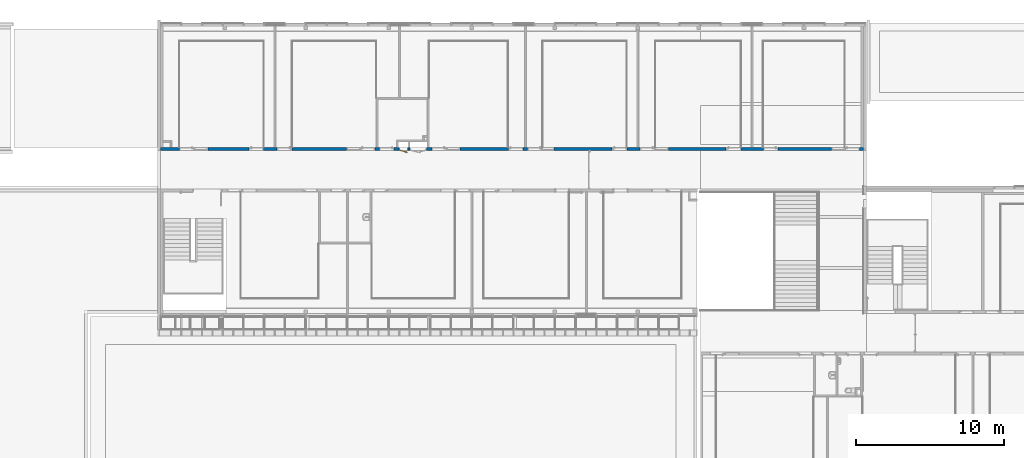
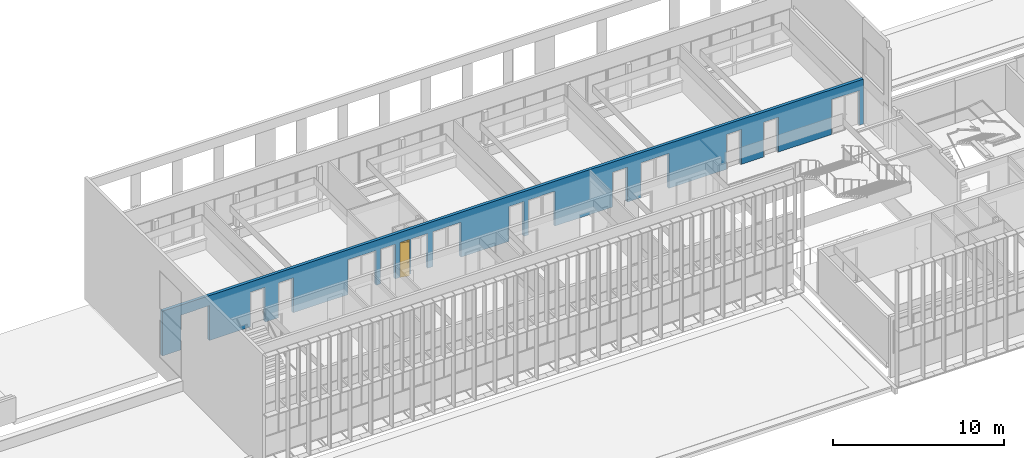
# One storey, part 47 of 106: 1 door, 1 wall, 21 openings.
"""IFC2X3 building model written with IfcOpenShell, lengths in centimetres."""

import ifcopenshell
import ifcopenshell.guid

model = None  # the IFC model being written
_history = None  # IfcOwnerHistory: only IFC2X3 demands one
_inside = {}  # id of a spatial element -> (the spatial element, [elements in it])
_under = {}  # id of a project, library or spatial element -> (it, [spatial elements below it])
_declared = {}  # id of a project -> (the project, [libraries it declares])
_typed = {}  # id of a type object -> (the type object, [elements of that type])
_made_of = {}  # id of a material, layer set ... -> (it, [elements and type objects made of it])


def new_model(schema):
    """Start an empty IFC model of exactly this schema.

    Asked for "IFC4X3", IfcOpenShell would pick the latest addendum, in which some entities
    have other attributes; the version numbers below select the first issue.
    IFC2X3 requires an IfcOwnerHistory on every rooted entity: one is made here for all.
    """
    global model, _history
    if schema == "IFC4X3":
        model = ifcopenshell.file(schema_version=(4, 3, 0, 0))
    else:
        model = ifcopenshell.file(schema=schema)
    _inside.clear()
    _under.clear()
    _declared.clear()
    _typed.clear()
    _made_of.clear()
    _history = None
    if model.schema == "IFC2X3":
        org = make("IfcOrganization", Name="unknown")
        user = make(
            "IfcPersonAndOrganization",
            ThePerson=make("IfcPerson", FamilyName="unknown"),
            TheOrganization=org,
        )
        app = make(
            "IfcApplication",
            ApplicationDeveloper=org,
            Version="unknown",
            ApplicationFullName="unknown",
            ApplicationIdentifier="unknown",
        )
        _history = make(
            "IfcOwnerHistory",
            OwningUser=user,
            OwningApplication=app,
            ChangeAction="ADDED",
            CreationDate=0,
        )
    return model


def make(cls, **values):
    """One entity of the class cls with the attributes given. An attribute that is None is left unset."""
    return model.create_entity(
        cls, **{name: value for name, value in values.items() if value is not None}
    )


def entity(cls, *values):
    """Any entity or typed value of the class cls, its attributes in the order of the schema. None: left unset."""
    e = model.create_entity(cls)
    for i, value in enumerate(values):
        if value is not None:
            e[i] = value
    return e


def rooted(cls, **values):
    """An entity with a GlobalId (a new one), such as an element, a storey or a relation."""
    return make(cls, GlobalId=ifcopenshell.guid.new(), OwnerHistory=_history, **values)


def si_unit(unit_type, name, prefix=None):
    """IfcSIUnit, for example si_unit("LENGTHUNIT", "METRE", prefix="MILLI")."""
    return make("IfcSIUnit", UnitType=unit_type, Prefix=prefix, Name=name)


def converted_unit(unit_type, name, factor, base, dimensions=None, offset=None):
    """IfcConversionBasedUnit, such as the inch: factor (a typed value) times the base unit."""
    return make(
        "IfcConversionBasedUnit"
        if offset is None
        else "IfcConversionBasedUnitWithOffset",
        ConversionOffset=offset,
        Dimensions=None
        if dimensions is None
        else entity("IfcDimensionalExponents", *dimensions),
        UnitType=unit_type,
        Name=name,
        ConversionFactor=make(
            "IfcMeasureWithUnit", ValueComponent=factor, UnitComponent=base
        ),
    )


def derived_unit(unit_type, elements):
    """IfcDerivedUnit: a product of units, each with its exponent."""
    return make(
        "IfcDerivedUnit",
        Elements=[
            make("IfcDerivedUnitElement", Unit=unit, Exponent=power)
            for unit, power in elements
        ],
        UnitType=unit_type,
    )


def assignment(units):
    """IfcUnitAssignment: the units of a project."""
    return None if units is None else make("IfcUnitAssignment", Units=units)


def point(xyz):
    """IfcCartesianPoint."""
    return None if xyz is None else make("IfcCartesianPoint", Coordinates=xyz)


def direction(xyz):
    """IfcDirection."""
    return None if xyz is None else make("IfcDirection", DirectionRatios=xyz)


def frame(location, z_axis=None, x_axis=None):
    """IfcAxis2Placement3D, a coordinate frame: its origin and axes. An axis left out is left unset."""
    return make(
        "IfcAxis2Placement3D",
        Location=point(location),
        Axis=direction(z_axis),
        RefDirection=direction(x_axis),
    )


def frame_2d(location, x_axis=None):
    """IfcAxis2Placement2D, a coordinate frame in the plane: its origin and x axis."""
    return make(
        "IfcAxis2Placement2D", Location=point(location), RefDirection=direction(x_axis)
    )


def origin():
    """The frame at (0, 0, 0) with its axes left unset."""
    return frame((0.0, 0.0, 0.0))


def place(relative_to, where):
    """IfcLocalPlacement: puts the frame where relative to a parent placement (None: the world)."""
    return make(
        "IfcLocalPlacement", PlacementRelTo=relative_to, RelativePlacement=where
    )


def context(
    kind, dimensions, precision=None, world=None, true_north=None, identifier=None
):
    """IfcGeometricRepresentationContext, for example the 3D "Model" context."""
    return make(
        "IfcGeometricRepresentationContext",
        ContextIdentifier=identifier,
        ContextType=kind,
        CoordinateSpaceDimension=dimensions,
        Precision=precision,
        WorldCoordinateSystem=world,
        TrueNorth=true_north,
    )


def subcontext(parent, identifier, kind, view, scale=None):
    """IfcGeometricRepresentationSubContext, for example "Body" below "Model"."""
    return make(
        "IfcGeometricRepresentationSubContext",
        ContextIdentifier=identifier,
        ContextType=kind,
        ParentContext=parent,
        TargetScale=scale,
        TargetView=view,
    )


def project(units=None, contexts=None):
    """IfcProject with its units and contexts."""
    return rooted(
        "IfcProject",
        Name="project",
        RepresentationContexts=contexts,
        UnitsInContext=assignment(units),
    )


def spatial(cls, under=None, at=None, **own):
    """A site, building, storey or space (cls), placed at a placement, below another one or the project."""
    s = rooted(cls, ObjectPlacement=at, **own)
    if under is not None:
        _under.setdefault(under.id(), (under, []))[1].append(s)
    return s


def polyline(points):
    """IfcPolyline through the points."""
    return make("IfcPolyline", Points=[point(p) for p in points])


def profile(cls, at=None, kind="AREA", **sizes):
    """A parametric profile (cls). Its sizes go by their IFC names, for example OverallWidth=200.0."""
    return make(cls, ProfileType=kind, Position=at, **sizes)


def rectangle(**sizes):
    """IfcRectangleProfileDef."""
    return profile("IfcRectangleProfileDef", **sizes)


def extrude(swept, where, along, depth):
    """IfcExtrudedAreaSolid: the profile swept, set in the frame where, extruded along a direction by depth."""
    return make(
        "IfcExtrudedAreaSolid",
        SweptArea=swept,
        Position=where,
        ExtrudedDirection=direction(along),
        Depth=depth,
    )


def clip(a, b, op="DIFFERENCE"):
    """IfcBooleanClippingResult: the solid a cut by the half space b."""
    return make(
        "IfcBooleanClippingResult", Operator=op, FirstOperand=a, SecondOperand=b
    )


def bounded_halfspace(plane, agree, where, boundary):
    """IfcPolygonalBoundedHalfSpace: a half space limited to a polygon's prism."""
    return make(
        "IfcPolygonalBoundedHalfSpace",
        BaseSurface=make("IfcPlane", Position=plane),
        AgreementFlag=agree,
        Position=where,
        PolygonalBoundary=boundary,
    )


def faces_of(points, faces, orient=None, outer=None):
    """IfcFace entities. A face is a list of loops; a loop is a list of indices into points, from 0.

    orient and outer hold one flag for each loop. By default every Orientation is true, the
    first loop of a face is its IfcFaceOuterBound and the others are IfcFaceBound.
    """
    made = []
    for i, loops in enumerate(faces):
        bounds = []
        for j, loop in enumerate(loops):
            is_outer = j == 0 if outer is None else outer[i][j]
            bounds.append(
                make(
                    "IfcFaceOuterBound" if is_outer else "IfcFaceBound",
                    Bound=make("IfcPolyLoop", Polygon=[points[k] for k in loop]),
                    Orientation=True if orient is None else orient[i][j],
                )
            )
        made.append(make("IfcFace", Bounds=bounds))
    return made


def faceted_brep(points, faces, orient=None, outer=None, voids=None):
    """IfcFacetedBrep: a solid bounded by flat faces; with voids (closed shells), ...WithVoids."""
    shared = [point(p) for p in points]
    hull = make("IfcClosedShell", CfsFaces=faces_of(shared, faces, orient, outer))
    if voids is None:
        return make("IfcFacetedBrep", Outer=hull)
    return make(
        "IfcFacetedBrepWithVoids",
        Outer=hull,
        Voids=[
            make(cls, CfsFaces=faces_of(shared, fs, o, b)) for cls, fs, o, b in voids
        ],
    )


def shape(context_of_items, identifier, shape_type, items):
    """IfcShapeRepresentation: the items that make up one representation, for example the "Body"."""
    return make(
        "IfcShapeRepresentation",
        ContextOfItems=context_of_items,
        RepresentationIdentifier=identifier,
        RepresentationType=shape_type,
        Items=items,
    )


def source(mapping_origin, context_of_items, identifier, shape_type, items):
    """IfcRepresentationMap: a shape defined once, which mapped items show again and again."""
    return make(
        "IfcRepresentationMap",
        MappingOrigin=mapping_origin,
        MappedRepresentation=shape(context_of_items, identifier, shape_type, items),
    )


def transform(
    local_origin,
    x_axis=None,
    y_axis=None,
    z_axis=None,
    scale=None,
    scale2=None,
    scale3=None,
    uniform=True,
):
    """IfcCartesianTransformationOperator3D, or its non-uniform kind. x_axis, y_axis, z_axis: its Axis1, 2, 3."""
    if uniform:
        return make(
            "IfcCartesianTransformationOperator3D",
            Axis1=direction(x_axis),
            Axis2=direction(y_axis),
            LocalOrigin=point(local_origin),
            Scale=scale,
            Axis3=direction(z_axis),
        )
    return make(
        "IfcCartesianTransformationOperator3DnonUniform",
        Axis1=direction(x_axis),
        Axis2=direction(y_axis),
        LocalOrigin=point(local_origin),
        Scale=scale,
        Axis3=direction(z_axis),
        Scale2=scale2,
        Scale3=scale3,
    )


def mapped(mapping_source, mapping_target):
    """IfcMappedItem: shows the shape of a source again, moved by a transform."""
    return make(
        "IfcMappedItem", MappingSource=mapping_source, MappingTarget=mapping_target
    )


def material(Name=None, Category=None):
    """IfcMaterial."""
    return make("IfcMaterial", Name=Name, Category=Category)


def material_list(materials):
    """IfcMaterialList."""
    return make("IfcMaterialList", Materials=materials)


def layer(
    of_material, thickness, ventilated=None, Name=None, Category=None, Priority=None
):
    """IfcMaterialLayer: one layer of a wall or slab, of a material (None: an air gap)."""
    return make(
        "IfcMaterialLayer",
        Material=of_material,
        LayerThickness=thickness,
        IsVentilated=ventilated,
        Name=Name,
        Category=Category,
        Priority=Priority,
    )


def layer_set(layers, Name=None):
    """IfcMaterialLayerSet."""
    return make("IfcMaterialLayerSet", MaterialLayers=layers, LayerSetName=Name)


def layer_usage(for_layer_set, set_direction, sense, offset, extent=None):
    """IfcMaterialLayerSetUsage: how a layer set lies in its element."""
    return make(
        "IfcMaterialLayerSetUsage",
        ForLayerSet=for_layer_set,
        LayerSetDirection=set_direction,
        DirectionSense=sense,
        OffsetFromReferenceLine=offset,
        ReferenceExtent=extent,
    )


def made_of(thing, what):
    """Note that an element or type object is made of a material, layer set ...; save() writes the relation."""
    if what is not None:
        _made_of.setdefault(what.id(), (what, []))[1].append(thing)
    return thing


def type_object(cls, material=None, **own):
    """A type object (cls), such as IfcWallType, which elements share."""
    return made_of(rooted(cls, **own), material)


def type_shapes(of_type, sources):
    """Give a type object the sources (RepresentationMaps) that its elements show as mapped items."""
    of_type.RepresentationMaps = sources


def element(
    cls,
    number,
    at=None,
    inside=None,
    cuts=None,
    type_object=None,
    material=None,
    context=None,
    identifier="Body",
    shape_type=None,
    held_by="IfcProductDefinitionShape",
    body=None,
    shapes=None,
    **own,
):
    """One element of the class cls, such as IfcWall. Its Tag is "e" and its number.

    at: its placement. inside: the storey or other place that contains it. cuts: it is an
    opening in that element (IfcRelVoidsElement). A single representation is given by context,
    identifier, shape_type and body (its items); several are given by shapes. held_by: the class
    of the entity that holds the representations. save() writes the other relations.
    """
    e = rooted(cls, Tag="e%d" % number, ObjectPlacement=at, **own)
    if body is not None:
        shapes = [shape(context, identifier, shape_type, body)]
    if shapes is not None:
        e.Representation = make(held_by, Representations=shapes)
    if inside is not None:
        _inside.setdefault(inside.id(), (inside, []))[1].append(e)
    if cuts is not None:
        rooted(
            "IfcRelVoidsElement", RelatingBuildingElement=cuts, RelatedOpeningElement=e
        )
    if type_object is not None:
        _typed.setdefault(type_object.id(), (type_object, []))[1].append(e)
    return made_of(e, material)


def fill(opening, filler):
    """IfcRelFillsElement: the door or window that sits in an opening."""
    return rooted(
        "IfcRelFillsElement",
        RelatingOpeningElement=opening,
        RelatedBuildingElement=filler,
    )


def aggregate(whole, parts):
    """IfcRelAggregates: a whole, such as a stair, and the parts it consists of."""
    return rooted("IfcRelAggregates", RelatingObject=whole, RelatedObjects=parts)


def save(model, path):
    """Write the relations noted so far, then the file.

    IfcRelAggregates (storeys below a building ...), IfcRelContainedInSpatialStructure (elements
    in a storey), IfcRelDefinesByType, IfcRelAssociatesMaterial and IfcRelDeclares: one each for
    every whole, place, type object, material and project.
    """
    for whole, parts in _under.values():
        aggregate(whole, parts)
    for where, things in _inside.values():
        rooted(
            "IfcRelContainedInSpatialStructure",
            RelatedElements=things,
            RelatingStructure=where,
        )
    for kind, things in _typed.values():
        rooted("IfcRelDefinesByType", RelatedObjects=things, RelatingType=kind)
    for what, things in _made_of.values():
        rooted("IfcRelAssociatesMaterial", RelatedObjects=things, RelatingMaterial=what)
    for by, libraries in _declared.values():
        rooted("IfcRelDeclares", RelatingContext=by, RelatedDefinitions=libraries)
    model.write(path)


model = new_model("IFC2X3")

# Units and contexts
model_context = context("Model", 3, precision=0.001, world=origin(), true_north=direction((6.12303176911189e-17, 1.0)))
body_context = subcontext(model_context, "Body", "Model", "MODEL_VIEW")
ifc_project = project(units=[si_unit("LENGTHUNIT", "METRE", prefix="CENTI"), si_unit("AREAUNIT", "SQUARE_METRE"), si_unit("VOLUMEUNIT", "CUBIC_METRE"), converted_unit("PLANEANGLEUNIT", "DEGREE", entity("IfcRatioMeasure", 0.0174532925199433), si_unit("PLANEANGLEUNIT", "RADIAN"), dimensions=[0, 0, 0, 0, 0, 0, 0]), si_unit("MASSUNIT", "GRAM", prefix="KILO"), derived_unit("MASSDENSITYUNIT", [(si_unit("MASSUNIT", "GRAM", prefix="KILO"), 1), (si_unit("LENGTHUNIT", "METRE"), -3)]), si_unit("TIMEUNIT", "SECOND"), si_unit("FREQUENCYUNIT", "HERTZ"), si_unit("THERMODYNAMICTEMPERATUREUNIT", "DEGREE_CELSIUS"), derived_unit("THERMALTRANSMITTANCEUNIT", [(si_unit("MASSUNIT", "GRAM", prefix="KILO"), 1), (si_unit("THERMODYNAMICTEMPERATUREUNIT", "KELVIN"), -1), (si_unit("TIMEUNIT", "SECOND"), -3)]), derived_unit("VOLUMETRICFLOWRATEUNIT", [(si_unit("LENGTHUNIT", "METRE"), 3), (si_unit("TIMEUNIT", "SECOND"), -1)]), si_unit("ELECTRICCURRENTUNIT", "AMPERE"), si_unit("ELECTRICVOLTAGEUNIT", "VOLT"), si_unit("POWERUNIT", "WATT"), si_unit("FORCEUNIT", "NEWTON", prefix="KILO"), si_unit("ILLUMINANCEUNIT", "LUX"), si_unit("LUMINOUSFLUXUNIT", "LUMEN"), si_unit("LUMINOUSINTENSITYUNIT", "CANDELA"), derived_unit("USERDEFINED", [(si_unit("MASSUNIT", "GRAM", prefix="KILO"), -1), (si_unit("LENGTHUNIT", "METRE"), -2), (si_unit("TIMEUNIT", "SECOND"), 3), (si_unit("LUMINOUSFLUXUNIT", "LUMEN"), 1)]), derived_unit("LINEARVELOCITYUNIT", [(si_unit("LENGTHUNIT", "METRE"), 1), (si_unit("TIMEUNIT", "SECOND"), -1)]), si_unit("PRESSUREUNIT", "PASCAL"), derived_unit("USERDEFINED", [(si_unit("LENGTHUNIT", "METRE"), -2), (si_unit("MASSUNIT", "GRAM", prefix="KILO"), 1), (si_unit("TIMEUNIT", "SECOND"), -2)])], contexts=[model_context])

# Site, building, storey
site_placement = place(None, frame((-2781.94577612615, 7442.24238424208, 0.0)))
site = spatial("IfcSite", under=ifc_project, at=site_placement, Name="Default", CompositionType="ELEMENT")
building_placement = place(site_placement, origin())
building = spatial("IfcBuilding", under=site, at=building_placement, CompositionType="ELEMENT")
storey_placement = place(building_placement, frame((0.0, 0.0, 422.0)))
storey = spatial("IfcBuildingStorey", under=building, at=storey_placement, Name="Toiture - Cuisine", CompositionType="ELEMENT", Elevation=421.999999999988)

# Wall, openings, door
ifc_material_1 = material(Name="01 - Maçonnerie")
ifc_layer = layer(ifc_material_1, 20.0)
ifc_layer_set = layer_set([ifc_layer], Name="Mur de base:04 - Structure - béton - 20cm")
ifc_layer_usage = layer_usage(ifc_layer_set, "AXIS2", "NEGATIVE", 10.0)
wall_type = type_object("IfcWallType", Name="Mur de base:04 - Structure - béton - 20cm", PredefinedType="STANDARD", material=ifc_layer_set)
wall_placement = place(building_placement, frame((-8409.49987766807, -820.048500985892, 422.0)))
wall = element("IfcWallStandardCase", 1, at=wall_placement, inside=storey, type_object=wall_type, material=ifc_layer_usage, Name="Mur de base:04 - Structure - béton - 20cm", ObjectType="Mur de base:04 - Structure - béton - 20cm", context=body_context, shape_type="Clipping", body=[
    clip(extrude(rectangle(XDim=4741.49999798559, YDim=20.0, at=frame_2d((2370.74999899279, 2.04281036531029e-14), x_axis=(-1.0, 0.0))), origin(), (0.0, 0.0, 1.0), 321.0), bounded_halfspace(frame((4741.49999798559, -10.0, 321.0), z_axis=(0.0, 0.0, -1.0), x_axis=(0.0, 1.0, 0.0)), True, frame((4741.49999798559, -10.0, 321.0)), polyline([(0.0, 0.0), (0.0, 20.0), (-15.3000000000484, 20.0), (-125.300000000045, 20.0), (-127.300000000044, 20.0), (-675.800000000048, 20.0), (-677.800000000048, 20.0), (-745.800000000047, 20.0), (-755.800000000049, 20.0), (-825.800000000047, 20.0), (-827.800000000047, 20.0), (-1403.80000000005, 20.0), (-1405.80000000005, 20.0), (-1516.49999791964, 20.0), (-1526.49999791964, 20.0), (-1595.78709704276, 20.0), (-1597.78709704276, 20.0), (-2163.80000000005, 20.0), (-2165.80000000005, 20.0), (-2275.80000000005, 20.0), (-2285.80000000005, 20.0), (-2395.80000000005, 20.0), (-2397.80000000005, 20.0), (-2931.80000000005, 20.0), (-2941.80000000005, 20.0), (-3060.80000000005, 20.0), (-3070.80000000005, 20.0), (-3137.80000000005, 20.0), (-3147.80000000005, 20.0), (-3275.80000000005, 20.0), (-3285.80000000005, 20.0), (-3416.49999791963, 20.0), (-3535.80000000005, 20.0), (-3545.80000000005, 20.0), (-3611.80000000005, 20.0), (-3853.80000000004, 20.0), (-3855.80000000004, 20.0), (-3965.80000000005, 20.0), (-3975.80000000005, 20.0), (-4044.30000000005, 20.0), (-4046.30000000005, 20.0), (-4614.19999798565, 20.0), (-4616.19999798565, 20.0), (-4666.19999798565, 20.0), (-4676.19999798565, 20.0), (-4726.19999798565, 20.0), (-4741.49999798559, 20.0), (-4741.49999798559, 0.0), (-1854.0, 0.0), (-1844.0, 0.0), (-1840.0, 0.0), (0.0, 0.0)]))),
])
opening_1_placement = place(wall_placement, frame((1669.50000006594, 10.0, 0.0)))
opening_1 = element("IfcOpeningElement", 2, at=opening_1_placement, cuts=wall, Name="Int. Simple:PP Placard (0.55m x 2.50m):1", ObjectType="Opening", context=body_context, shape_type="SweptSolid", body=[
    extrude(rectangle(XDim=248.500000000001, YDim=61.9999999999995, at=frame_2d((124.250000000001, 30.9999999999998), x_axis=(1.0, 0.0))), frame((0.0, 0.0, 0.0), z_axis=(0.0, -1.0, 0.0), x_axis=(0.0, 0.0, 1.0)), (0.0, 0.0, 1.0), 20.0),
])
opening_2_placement = place(wall_placement, frame((1794.50000006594, 10.0, 0.0)))
element("IfcOpeningElement", 3, at=opening_2_placement, cuts=wall, Name="Int. Double:PP Placard (1.05m x 2.50m):1", ObjectType="Opening", context=body_context, shape_type="SweptSolid", body=[
    extrude(rectangle(XDim=248.500000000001, YDim=112.0, at=frame_2d((124.250000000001, 56.0000000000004), x_axis=(1.0, 0.0))), frame((0.0, 0.0, 0.0), z_axis=(0.0, -1.0, 0.0), x_axis=(0.0, 0.0, 1.0)), (0.0, 0.0, 1.0), 20.0),
])
opening_3_placement = place(wall_placement, frame((126.799999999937, -10.0, 0.0)))
element("IfcOpeningElement", 4, at=opening_3_placement, cuts=wall, Name="Int. Simple:PV (0.93m x 2.50m):1", ObjectType="Opening", context=body_context, shape_type="SweptSolid", body=[
    extrude(rectangle(XDim=248.500000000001, YDim=99.9999999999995, at=frame_2d((124.250000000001, 50.0), x_axis=(1.0, 0.0))), frame((0.0, 0.0, 0.0), z_axis=(0.0, 1.0, 0.0), x_axis=(0.0, 0.0, 1.0)), (0.0, 0.0, 1.0), 20.0),
])
opening_4_placement = place(wall_placement, frame((595.699997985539, -10.0, 0.0)))
element("IfcOpeningElement", 5, at=opening_4_placement, cuts=wall, Name="Int. Simple:PV (0.93m x 2.50m):1", ObjectType="Opening", context=body_context, shape_type="SweptSolid", body=[
    extrude(rectangle(XDim=248.500000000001, YDim=99.9999999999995, at=frame_2d((124.250000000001, 49.9999999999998), x_axis=(1.0, 0.0))), frame((0.0, 0.0, 0.0), z_axis=(0.0, 1.0, 0.0), x_axis=(0.0, 0.0, 1.0)), (0.0, 0.0, 1.0), 20.0),
])
opening_5_placement = place(wall_placement, frame((785.699997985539, -10.0, 0.0)))
element("IfcOpeningElement", 6, at=opening_5_placement, cuts=wall, Name="Int. Simple:PV (0.93m x 2.50m):1", ObjectType="Opening", context=body_context, shape_type="SweptSolid", body=[
    extrude(rectangle(XDim=248.500000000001, YDim=99.9999999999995, at=frame_2d((124.250000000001, 50.0), x_axis=(1.0, 0.0))), frame((0.0, 0.0, 0.0), z_axis=(0.0, 1.0, 0.0), x_axis=(0.0, 0.0, 1.0)), (0.0, 0.0, 1.0), 20.0),
])
opening_6_placement = place(wall_placement, frame((1345.69999798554, -10.0, 0.0)))
element("IfcOpeningElement", 7, at=opening_6_placement, cuts=wall, Name="Int. Simple:PV (0.93m x 2.50m):1", ObjectType="Opening", context=body_context, shape_type="SweptSolid", body=[
    extrude(rectangle(XDim=248.500000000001, YDim=99.9999999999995, at=frame_2d((124.250000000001, 49.9999999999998), x_axis=(1.0, 0.0))), frame((0.0, 0.0, 0.0), z_axis=(0.0, 1.0, 0.0), x_axis=(0.0, 0.0, 1.0)), (0.0, 0.0, 1.0), 20.0),
])
opening_7_placement = place(wall_placement, frame((1475.69999798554, -10.0, 0.0)))
element("IfcOpeningElement", 8, at=opening_7_placement, cuts=wall, Name="Int. Simple:PP simple (0.93m x 2.50m):1", ObjectType="Opening", context=body_context, shape_type="SweptSolid", body=[
    extrude(rectangle(XDim=248.500000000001, YDim=99.9999999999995, at=frame_2d((124.250000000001, 50.0), x_axis=(1.0, 0.0))), frame((0.0, 0.0, 0.0), z_axis=(0.0, 1.0, 0.0), x_axis=(0.0, 0.0, 1.0)), (0.0, 0.0, 1.0), 20.0),
])
opening_8_placement = place(wall_placement, frame((1829.69999798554, -10.0, 0.0)))
element("IfcOpeningElement", 9, at=opening_8_placement, cuts=wall, Name="Int. Simple:PV (0.93m x 2.50m):1", ObjectType="Opening", context=body_context, shape_type="SweptSolid", body=[
    extrude(rectangle(XDim=248.500000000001, YDim=99.9999999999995, at=frame_2d((124.250000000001, 50.0), x_axis=(1.0, 0.0))), frame((0.0, 0.0, 0.0), z_axis=(0.0, 1.0, 0.0), x_axis=(0.0, 0.0, 1.0)), (0.0, 0.0, 1.0), 20.0),
])
opening_9_placement = place(wall_placement, frame((2345.69999798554, -10.0, 0.0)))
element("IfcOpeningElement", 10, at=opening_9_placement, cuts=wall, Name="Int. Simple:PV (0.93m x 2.50m):1", ObjectType="Opening", context=body_context, shape_type="SweptSolid", body=[
    extrude(rectangle(XDim=248.500000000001, YDim=99.9999999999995, at=frame_2d((124.250000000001, 49.9999999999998), x_axis=(1.0, 0.0))), frame((0.0, 0.0, 0.0), z_axis=(0.0, 1.0, 0.0), x_axis=(0.0, 0.0, 1.0)), (0.0, 0.0, 1.0), 20.0),
])
opening_10_placement = place(wall_placement, frame((2475.69999798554, -10.0, 0.0)))
element("IfcOpeningElement", 11, at=opening_10_placement, cuts=wall, Name="Int. Simple:PV (0.93m x 2.50m):1", ObjectType="Opening", context=body_context, shape_type="SweptSolid", body=[
    extrude(rectangle(XDim=248.500000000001, YDim=99.9999999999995, at=frame_2d((124.250000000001, 50.0), x_axis=(1.0, 0.0))), frame((0.0, 0.0, 0.0), z_axis=(0.0, 1.0, 0.0), x_axis=(0.0, 0.0, 1.0)), (0.0, 0.0, 1.0), 20.0),
])
opening_11_placement = place(wall_placement, frame((3045.69999798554, -10.0, 0.0)))
element("IfcOpeningElement", 12, at=opening_11_placement, cuts=wall, Name="Int. Simple:PV (0.93m x 2.50m):1", ObjectType="Opening", context=body_context, shape_type="SweptSolid", body=[
    extrude(rectangle(XDim=248.500000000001, YDim=99.9999999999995, at=frame_2d((124.250000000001, 49.9999999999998), x_axis=(1.0, 0.0))), frame((0.0, 0.0, 0.0), z_axis=(0.0, 1.0, 0.0), x_axis=(0.0, 0.0, 1.0)), (0.0, 0.0, 1.0), 20.0),
])
opening_12_placement = place(wall_placement, frame((3235.69999798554, -10.0, 0.0)))
element("IfcOpeningElement", 13, at=opening_12_placement, cuts=wall, Name="Int. Simple:PV (0.93m x 2.50m):1", ObjectType="Opening", context=body_context, shape_type="SweptSolid", body=[
    extrude(rectangle(XDim=248.500000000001, YDim=99.9999999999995, at=frame_2d((124.250000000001, 50.0), x_axis=(1.0, 0.0))), frame((0.0, 0.0, 0.0), z_axis=(0.0, 1.0, 0.0), x_axis=(0.0, 0.0, 1.0)), (0.0, 0.0, 1.0), 20.0),
])
opening_13_placement = place(wall_placement, frame((3815.69999798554, -10.0, 0.0)))
element("IfcOpeningElement", 14, at=opening_13_placement, cuts=wall, Name="Int. Simple:PV (0.93m x 2.50m):1", ObjectType="Opening", context=body_context, shape_type="SweptSolid", body=[
    extrude(rectangle(XDim=248.500000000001, YDim=99.9999999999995, at=frame_2d((124.250000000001, 49.9999999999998), x_axis=(1.0, 0.0))), frame((0.0, 0.0, 0.0), z_axis=(0.0, 1.0, 0.0), x_axis=(0.0, 0.0, 1.0)), (0.0, 0.0, 1.0), 20.0),
])
opening_14_placement = place(wall_placement, frame((4065.69999798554, -10.0, 0.0)))
element("IfcOpeningElement", 15, at=opening_14_placement, cuts=wall, Name="Int. Simple:PV (0.93m x 2.50m):1", ObjectType="Opening", context=body_context, shape_type="SweptSolid", body=[
    extrude(rectangle(XDim=248.500000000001, YDim=99.9999999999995, at=frame_2d((124.250000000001, 50.0), x_axis=(1.0, 0.0))), frame((0.0, 0.0, 0.0), z_axis=(0.0, 1.0, 0.0), x_axis=(0.0, 0.0, 1.0)), (0.0, 0.0, 1.0), 20.0),
])
opening_15_placement = place(wall_placement, frame((4616.19999798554, -10.0, 0.0)))
element("IfcOpeningElement", 16, at=opening_15_placement, cuts=wall, Name="Int. Simple:PV (0.93m x 2.50m):1", ObjectType="Opening", context=body_context, shape_type="SweptSolid", body=[
    extrude(rectangle(XDim=248.500000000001, YDim=99.9999999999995, at=frame_2d((124.250000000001, 49.9999999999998), x_axis=(1.0, 0.0))), frame((0.0, 0.0, 0.0), z_axis=(0.0, 1.0, 0.0), x_axis=(0.0, 0.0, 1.0)), (0.0, 0.0, 1.0), 20.0),
])
opening_16_placement = place(wall_placement, frame((1255.69999798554, -10.0, 0.0)))
element("IfcOpeningElement", 17, at=opening_16_placement, cuts=wall, Name="châssis intérieur vitré:châssis intérieur vitré (h=270) R+1:1", ObjectType="Opening", context=body_context, shape_type="SweptSolid", body=[
    extrude(rectangle(XDim=250.0, YDim=89.9999999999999, at=frame_2d((125.0, 45.0), x_axis=(1.0, 0.0))), frame((0.0, 0.0, 0.0), z_axis=(0.0, 1.0, 0.0), x_axis=(0.0, 0.0, 1.0)), (0.0, 0.0, 1.0), 20.0),
])
opening_17_placement = place(wall_placement, frame((1929.69999798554, -10.0, 0.0)))
element("IfcOpeningElement", 18, at=opening_17_placement, cuts=wall, Name="châssis intérieur vitré:châssis intérieur vitré (h=270) R+1:1", ObjectType="Opening", context=body_context, shape_type="SweptSolid", body=[
    extrude(rectangle(XDim=250.0, YDim=89.9999999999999, at=frame_2d((125.0, 45.0), x_axis=(1.0, 0.0))), frame((0.0, 0.0, 0.0), z_axis=(0.0, 1.0, 0.0), x_axis=(0.0, 0.0, 1.0)), (0.0, 0.0, 1.0), 20.0),
])
opening_18_placement = place(wall_placement, frame((4526.19999798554, -10.0, 0.0)))
element("IfcOpeningElement", 19, at=opening_18_placement, cuts=wall, Name="châssis intérieur vitré:châssis intérieur vitré (h=270) R+1:1", ObjectType="Opening", context=body_context, shape_type="SweptSolid", body=[
    extrude(rectangle(XDim=250.0, YDim=89.9999999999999, at=frame_2d((125.0, 45.0000000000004), x_axis=(1.0, 0.0))), frame((0.0, 0.0, 0.0), z_axis=(0.0, 1.0, 0.0), x_axis=(0.0, 0.0, 1.0)), (0.0, 0.0, 1.0), 20.0),
])
opening_19_placement = place(wall_placement, frame((3335.69999798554, -10.0, 0.0)))
element("IfcOpeningElement", 20, at=opening_19_placement, cuts=wall, Name="châssis intérieur vitré:châssis intérieur vitré (h=270) R+1:1", ObjectType="Opening", context=body_context, shape_type="SweptSolid", body=[
    extrude(rectangle(XDim=250.0, YDim=89.9999999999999, at=frame_2d((125.0, 45.0000000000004), x_axis=(1.0, 0.0))), frame((0.0, 0.0, 0.0), z_axis=(0.0, 1.0, 0.0), x_axis=(0.0, 0.0, 1.0)), (0.0, 0.0, 1.0), 20.0),
])
opening_20_placement = place(wall_placement, frame((2565.69999798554, -10.0, 0.0)))
element("IfcOpeningElement", 21, at=opening_20_placement, cuts=wall, Name="châssis intérieur vitré:châssis intérieur vitré (h=270) R+1:1", ObjectType="Opening", context=body_context, shape_type="SweptSolid", body=[
    extrude(rectangle(XDim=250.0, YDim=89.9999999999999, at=frame_2d((125.0, 45.0000000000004), x_axis=(1.0, 0.0))), frame((0.0, 0.0, 0.0), z_axis=(0.0, 1.0, 0.0), x_axis=(0.0, 0.0, 1.0)), (0.0, 0.0, 1.0), 20.0),
])
opening_21_placement = place(wall_placement, frame((226.799999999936, -10.0, 0.0)))
element("IfcOpeningElement", 22, at=opening_21_placement, cuts=wall, Name="châssis intérieur vitré:châssis intérieur vitré (h=270) R+1:1", ObjectType="Opening", context=body_context, shape_type="SweptSolid", body=[
    extrude(rectangle(XDim=250.0, YDim=91.4999999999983, at=frame_2d((125.0, 45.7499999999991), x_axis=(1.0, 0.0))), frame((0.0, 0.0, 0.0), z_axis=(0.0, 1.0, 0.0), x_axis=(0.0, 0.0, 1.0)), (0.0, 0.0, 1.0), 20.0),
])
ifc_material_2 = material(Name="Finition Peinture - Blanc satiné")
ifc_material_3 = material(Name="Bois - Panneau de porte")
ifc_material_4 = material(Name="Bois - Cadre de porte")
ifc_material_list_1 = material_list([ifc_material_2, ifc_material_3, ifc_material_4])
ifc_material_list_2 = material_list([ifc_material_2, ifc_material_3, ifc_material_4])
door_style = type_object("IfcDoorStyle", Name="PP Placard (0.55m x 2.50m)", ConstructionType="NOTDEFINED", OperationType="SINGLE_SWING_RIGHT", ParameterTakesPrecedence=False, Sizeable=False, material=ifc_material_list_2)
shared_shape = source(origin(), body_context, "Body", "Brep", [
    faceted_brep([(59.6328076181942, -13.6827342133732, 87.0), (59.6328076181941, -13.6827342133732, 108.0), (58.700955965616, -13.4330453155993, 108.399601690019), (57.700955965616, -13.1650961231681, 108.535898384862), (56.700955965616, -12.897146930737, 108.399601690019), (55.7691043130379, -12.6474580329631, 108.0), (55.7691043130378, -12.6474580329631, 87.0), (56.7009559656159, -12.897146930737, 86.6003983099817), (57.7009559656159, -13.1650961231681, 86.464101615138), (58.7009559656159, -13.4330453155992, 86.6003983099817), (59.7622171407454, -13.1997713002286, 108.0), (59.7622171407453, -13.1997713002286, 87.0), (58.8303654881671, -12.9500824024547, 86.6003983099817), (57.8303654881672, -12.6821332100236, 86.464101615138), (56.8303654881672, -12.4141840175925, 86.6003983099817), (55.898513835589, -12.1644951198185, 87.0), (55.8985138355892, -12.1644951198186, 108.0), (56.8303654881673, -12.4141840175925, 108.399601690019), (57.8303654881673, -12.6821332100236, 108.535898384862), (58.8303654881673, -12.9500824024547, 108.399601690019)], [[[0, 1, 2, 3, 4, 5, 6, 7, 8, 9]], [[10, 11, 12, 13, 14, 15, 16, 17, 18, 19]], [[9, 12, 11, 0]], [[8, 13, 12, 9]], [[7, 14, 13, 8]], [[7, 6, 15, 14]], [[15, 6, 5, 16]], [[4, 17, 16, 5]], [[3, 18, 17, 4]], [[2, 19, 18, 3]], [[2, 1, 10, 19]], [[11, 10, 1, 0]]]),
    faceted_brep([(60.7974933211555, -9.33606799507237, 87.0), (60.7974933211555, -9.33606799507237, 108.0), (59.8656416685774, -9.08637909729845, 108.399601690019), (58.8656416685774, -8.81842990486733, 108.535898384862), (57.8656416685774, -8.55048071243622, 108.399601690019), (56.9337900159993, -8.3007918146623, 108.0), (56.9337900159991, -8.30079181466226, 87.0), (57.8656416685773, -8.55048071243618, 86.6003983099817), (58.8656416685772, -8.8184299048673, 86.464101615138), (59.8656416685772, -9.08637909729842, 86.6003983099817), (58.9950511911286, -8.3354669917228, 108.535898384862), (59.9950511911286, -8.60341618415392, 108.399601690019), (60.9269028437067, -8.85310508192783, 108.0), (60.9269028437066, -8.85310508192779, 87.0), (59.9950511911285, -8.60341618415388, 86.6003983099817), (58.9950511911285, -8.33546699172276, 86.464101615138), (57.9950511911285, -8.06751779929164, 86.6003983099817), (57.0631995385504, -7.81782890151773, 87.0), (57.0631995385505, -7.81782890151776, 108.0), (57.9950511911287, -8.06751779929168, 108.399601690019)], [[[0, 1, 2, 3, 4, 5, 6, 7, 8, 9]], [[10, 11, 12, 13, 14, 15, 16, 17, 18, 19]], [[4, 19, 18, 5]], [[3, 10, 19, 4]], [[2, 11, 10, 3]], [[2, 1, 12, 11]], [[13, 12, 1, 0]], [[9, 14, 13, 0]], [[8, 15, 14, 9]], [[7, 16, 15, 8]], [[7, 6, 17, 16]], [[17, 6, 5, 18]]]),
    faceted_brep([(57.5053271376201, -13.1126775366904, 100.778044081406), (57.8965847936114, -13.2175147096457, 100.778044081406), (58.2805114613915, -13.3203875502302, 100.699999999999), (58.2805114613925, -13.3203875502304, 99.2999999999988), (57.8965847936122, -13.2175147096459, 99.221955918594), (57.5053271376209, -13.1126775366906, 99.2219559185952), (57.1214004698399, -13.0098046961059, 99.3000000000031), (57.12140046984, -13.0098046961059, 100.7), (57.2235368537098, -15.7293638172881, 100.778044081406), (57.5648521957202, -15.9912642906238, 100.7), (56.8757041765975, -15.4624624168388, 100.778044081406), (55.2007309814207, -16.4295086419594, 100.778044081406), (55.2579580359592, -16.8641912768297, 100.778044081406), (56.5343888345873, -15.2005619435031, 100.7), (56.5343888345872, -15.200561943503, 99.3000000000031), (56.8757041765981, -15.4624624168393, 99.2219559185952), (57.2235368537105, -15.7293638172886, 99.221955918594), (55.2579580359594, -16.8641912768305, 99.221955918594), (55.2007309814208, -16.4295086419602, 99.2219559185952), (57.5648521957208, -15.9912642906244, 99.2999999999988), (55.3141128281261, -17.2907292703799, 100.7), (55.144576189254, -16.0029706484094, 100.7), (55.1445761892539, -16.0029706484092, 99.3000000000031), (55.3141128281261, -17.2907292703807, 99.2999999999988), (46.8486006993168, -15.0224021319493, 100.7), (46.9514735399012, -14.6384754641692, 100.778044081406), (47.0563107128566, -14.2472178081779, 100.778044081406), (47.1591835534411, -13.8632911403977, 100.699999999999), (47.1591835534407, -13.8632911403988, 99.3000000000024), (47.0563107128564, -14.2472178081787, 99.2219559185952), (46.951473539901, -14.63847546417, 99.221955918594), (46.8486006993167, -15.0224021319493, 99.2999999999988), (51.076102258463, -15.5339920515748, 100.78786867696), (51.4571239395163, -16.2572522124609, 100.7), (51.1518798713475, -14.9331308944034, 100.7), (51.1518798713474, -14.9331308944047, 99.3000000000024), (51.0761022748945, -15.5339920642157, 99.2121313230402), (51.4571246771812, -16.2572524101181, 99.2999999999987)], [[[0, 1, 2, 3, 4, 5, 6, 7]], [[2, 1, 8, 9]], [[1, 0, 10, 11, 12, 8]], [[0, 7, 13, 10]], [[14, 13, 7, 6]], [[5, 15, 14, 6]], [[5, 4, 16, 17, 18, 15]], [[3, 19, 16, 4]], [[9, 19, 3, 2]], [[9, 8, 12, 20]], [[10, 13, 21, 11]], [[22, 21, 13, 14]], [[14, 15, 18, 22]], [[16, 19, 23, 17]], [[20, 23, 19, 9]], [[24, 25, 26, 27, 28, 29, 30, 31]], [[32, 25, 33]], [[33, 25, 24]], [[33, 20, 12]], [[11, 34, 32]], [[34, 11, 21]], [[27, 26, 34]], [[32, 26, 25]], [[32, 34, 26]], [[32, 33, 12]], [[11, 32, 12]], [[21, 22, 35, 28, 27, 34]], [[36, 29, 35]], [[30, 36, 37]], [[18, 35, 22]], [[29, 28, 35]], [[30, 37, 31]], [[37, 17, 23]], [[36, 17, 37]], [[36, 18, 17]], [[36, 35, 18]], [[29, 36, 30]], [[23, 20, 33, 24, 31, 37]]]),
    faceted_brep([(58.7994223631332, -8.28304840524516, 99.2219559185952), (59.1906800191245, -8.38788557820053, 99.221955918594), (59.5746066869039, -8.49075841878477, 99.2999999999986), (59.5746066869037, -8.49075841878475, 100.7), (59.1906800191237, -8.38788557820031, 100.778044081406), (58.7994223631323, -8.28304840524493, 100.778044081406), (58.4154956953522, -8.18017556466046, 100.7), (58.4154956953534, -8.18017556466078, 99.3000000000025), (58.9974556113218, -6.00827159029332, 100.7), (58.9974556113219, -6.00827159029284, 99.3000000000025), (59.4239936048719, -5.95211679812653, 100.778044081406), (59.8586762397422, -5.89488974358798, 100.778044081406), (58.7141254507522, -3.91246962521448, 100.778044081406), (58.4472240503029, -4.26030230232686, 100.778044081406), (60.2852142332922, -5.8387349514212, 100.7), (60.2852142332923, -5.83873495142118, 99.2999999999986), (59.8586762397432, -5.89488974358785, 99.221955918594), (59.4239936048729, -5.9521167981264, 99.2219559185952), (58.4472240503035, -4.26030230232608, 99.2219559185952), (58.7141254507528, -3.9124696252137, 99.221955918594), (58.1853235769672, -4.60161764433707, 100.7), (58.185323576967, -4.60161764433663, 99.3000000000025), (58.9760259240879, -3.57115428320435, 100.7), (58.976025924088, -3.57115428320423, 99.2999999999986), (50.3134642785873, -2.08086794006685, 100.778044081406), (50.4183014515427, -1.6896102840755, 100.778044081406), (50.5211742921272, -1.30568361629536, 100.7), (50.5211742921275, -1.30568361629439, 99.2999999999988), (50.418301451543, -1.68961028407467, 99.221955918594), (50.3134642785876, -2.08086794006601, 99.2219559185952), (50.2105914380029, -2.46479460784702, 99.3000000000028), (50.2105914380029, -2.46479460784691, 100.7), (54.1979575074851, -3.53320612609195, 100.7), (54.1979586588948, -3.53320643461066, 99.3000000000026), (54.4327627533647, -2.97495629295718, 100.78786867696), (55.1190370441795, -2.53767722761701, 100.7), (55.1190371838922, -2.5376772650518, 99.2999999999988), (54.4327627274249, -2.97495629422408, 99.2121313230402)], [[[0, 1, 2, 3, 4, 5, 6, 7]], [[8, 9, 7, 6]], [[5, 10, 8, 6]], [[5, 4, 11, 12, 13, 10]], [[3, 14, 11, 4]], [[14, 3, 2, 15]], [[2, 1, 16, 15]], [[1, 0, 17, 18, 19, 16]], [[0, 7, 9, 17]], [[20, 21, 9, 8]], [[8, 10, 13, 20]], [[14, 22, 12, 11]], [[23, 22, 14, 15]], [[15, 16, 19, 23]], [[17, 9, 21, 18]], [[24, 25, 26, 27, 28, 29, 30, 31]], [[21, 20, 32, 31, 30, 33]], [[34, 24, 32]], [[25, 34, 35]], [[13, 32, 20]], [[24, 31, 32]], [[25, 35, 26]], [[35, 12, 22]], [[34, 12, 35]], [[34, 13, 12]], [[34, 32, 13]], [[24, 34, 25]], [[22, 23, 36, 27, 26, 35]], [[37, 28, 36]], [[36, 28, 27]], [[36, 23, 19]], [[18, 33, 37]], [[33, 18, 21]], [[30, 29, 33]], [[37, 29, 28]], [[37, 33, 29]], [[37, 36, 19]], [[18, 37, 19]]]),
    faceted_brep([(64.6611966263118, -10.3713441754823, 245.0), (64.6611966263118, -10.3713441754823, 0.0), (11.535276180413, 3.86370330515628, 0.0), (11.535276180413, 3.86370330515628, 245.0), (63.6259204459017, -14.2350474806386, 245.0), (10.5000000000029, 0.0, 245.0), (10.5000000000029, 0.0, 0.0), (63.6259204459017, -14.2350474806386, 0.0)], [[[0, 1, 2, 3]], [[4, 5, 6, 7]], [[3, 5, 4, 0]], [[2, 6, 5, 3]], [[1, 7, 6, 2]], [[0, 4, 7, 1]]]),
    faceted_brep([(69.0, 20.0, 0.0), (69.0, 0.0, 0.0), (70.500000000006, 0.0, 0.0), (70.500000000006, -0.500000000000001, 0.0), (65.500000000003, -0.500000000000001, 0.0), (65.500000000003, 4.0, 0.0), (64.0, 4.0, 0.0), (64.0, 20.5000000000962, 0.0), (70.5000000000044, 20.5000000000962, 0.0), (70.5000000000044, 20.0, 0.0), (69.0, 20.0, 248.500000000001), (69.0, 0.0, 248.500000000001), (70.5000000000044, 20.0, 250.0), (5.5000000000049, 20.0, 250.0), (5.50000000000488, 20.0, 0.0), (7.0, 20.0, 0.0), (7.0, 20.0, 248.500000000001), (64.0, 4.0, 243.5), (64.0, 20.5000000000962, 243.5), (65.500000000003, 4.0, 245.0), (10.5000000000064, 4.0, 245.0), (10.5000000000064, 4.0, 0.0), (12.0, 4.0, 0.0), (12.0, 4.0, 243.5), (7.0, 0.0, 0.0), (7.0, 0.0, 248.500000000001), (5.50000000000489, 20.5000000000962, 0.0), (12.0, 20.5000000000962, 0.0), (10.5000000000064, -0.500000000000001, 0.0), (5.50000000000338, -0.500000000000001, 0.0), (5.50000000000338, 0.0, 0.0), (12.0, 20.5000000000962, 243.5), (65.5000000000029, -0.500000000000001, 245.0), (70.5000000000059, -0.500000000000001, 250.0), (5.50000000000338, -0.500000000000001, 250.0), (10.5000000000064, -0.500000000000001, 245.0), (70.500000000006, 0.0, 250.0), (5.50000000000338, 0.0, 250.0), (70.5000000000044, 20.5000000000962, 250.0), (5.50000000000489, 20.5000000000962, 250.0)], [[[0, 1, 2, 3, 4, 5, 6, 7, 8, 9]], [[0, 10, 11, 1]], [[9, 12, 13, 14, 15, 16, 10, 0]], [[7, 6, 17, 18]], [[5, 19, 20, 21, 22, 23, 17, 6]], [[16, 15, 24, 25]], [[15, 14, 26, 27, 22, 21, 28, 29, 30, 24]], [[23, 22, 27, 31]], [[10, 16, 25, 11]], [[17, 23, 31, 18]], [[5, 4, 32, 19]], [[3, 33, 34, 29, 28, 35, 32, 4]], [[2, 36, 33, 3]], [[1, 11, 25, 24, 30, 37, 36, 2]], [[8, 38, 12, 9]], [[7, 18, 31, 27, 26, 39, 38, 8]], [[35, 28, 21, 20]], [[37, 30, 29, 34]], [[39, 26, 14, 13]], [[32, 35, 20, 19]], [[36, 37, 34, 33]], [[38, 39, 13, 12]]]),
])
type_shapes(door_style, [shared_shape])
door_placement = place(opening_1_placement, frame((-69.0, -20.0, 0.0)))
door = element("IfcDoor", 23, at=door_placement, inside=storey, type_object=door_style, material=ifc_material_list_1, Name="Int. Simple:PP Placard (0.55m x 2.50m)", ObjectType="Int. Simple:PP Placard (0.55m x 2.50m)", OverallHeight=248.500000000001, OverallWidth=61.9999999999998, context=body_context, shape_type="MappedRepresentation", body=[
    mapped(shared_shape, transform((0.0, 0.0, 0.0), scale=1.0)),
])
fill(opening_1, door)

save(model, "model.ifc")
